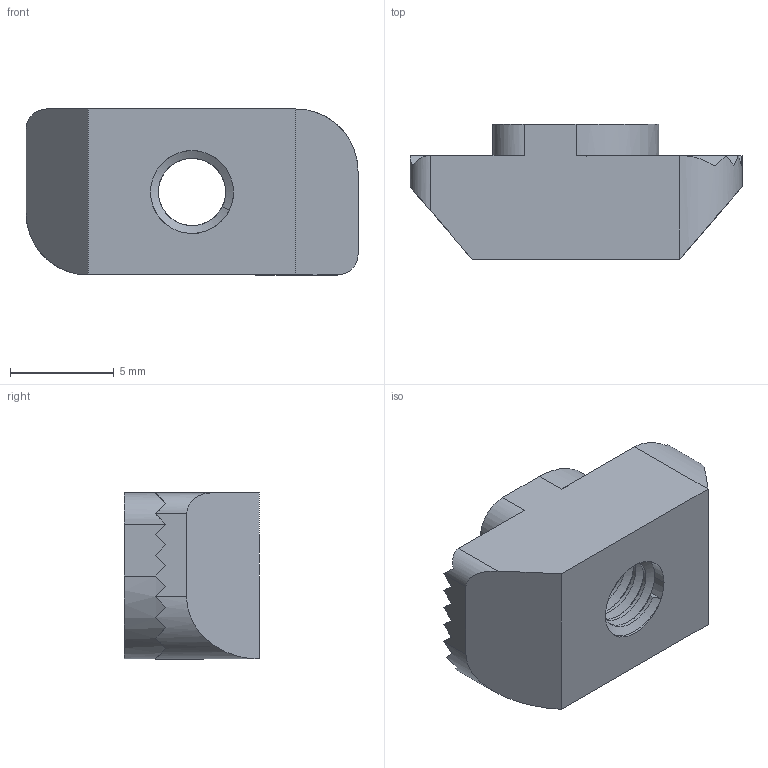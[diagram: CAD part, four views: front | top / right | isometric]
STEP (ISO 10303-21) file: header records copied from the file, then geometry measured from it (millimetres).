
FILE_DESCRIPTION (( 'STEP AP214' ), '1' );
FILE_NAME ('8-1-M4.STEP', '2018-03-02T21:11:17', ( '' ), ( '' ), 'SwSTEP 2.0', 'SolidWorks 2018', '' );
FILE_SCHEMA (( 'AUTOMOTIVE_DESIGN' ));
Length unit declared in the file: millimetre
Products named in the file (1): 8-1-M4
Bounding box: 16 x 6.51 x 8 mm (x, y, z)
Volume: 546.7 mm3; surface area: 590.6 mm2
Topology: 1 solids, 1 shells, 75 faces, 204 edges, 131 vertices
Faces by surface type: plane 44, cylinder 27, bspline 4
Entity records: 3455 total; most frequent: CARTESIAN_POINT 1789, ORIENTED_EDGE 408, DIRECTION 271, EDGE_CURVE 204, VERTEX_POINT 131, LINE 107, VECTOR 107, AXIS2_PLACEMENT_3D 82
